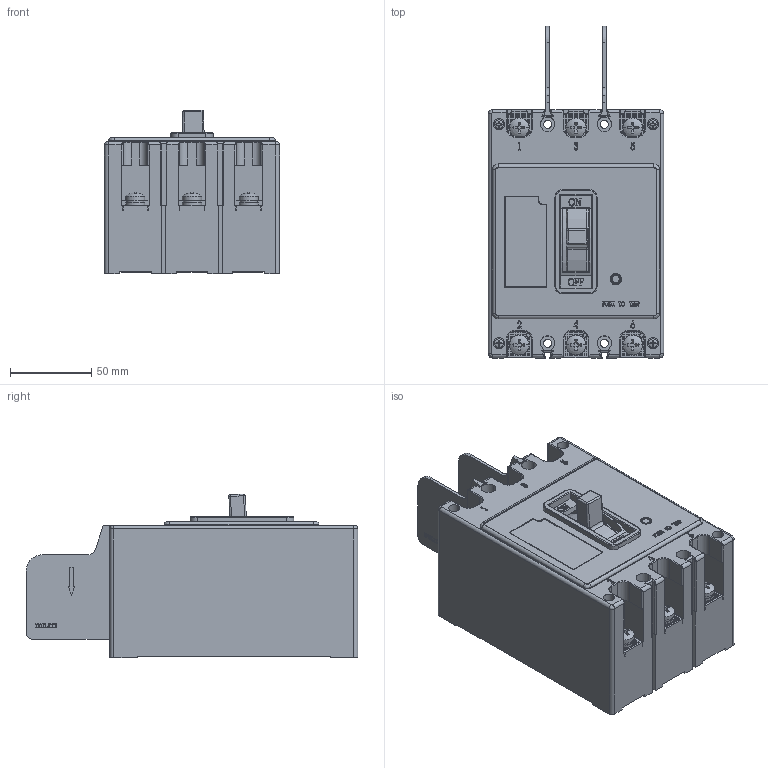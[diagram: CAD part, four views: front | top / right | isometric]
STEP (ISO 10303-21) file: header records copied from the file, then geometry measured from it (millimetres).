
FILE_DESCRIPTION((''),'2;1');
FILE_NAME('2256000700_SW0001','2023-11-10T',('baocang.li'),(''),'PRO/ENGINEER BY PARAMETRIC TECHNOLOGY CORPORATION, 2015440','PRO/ENGINEER BY PARAMETRIC TECHNOLOGY CORPORATION, 2015440','');
FILE_SCHEMA(('CONFIG_CONTROL_DESIGN'));
Products named in the file (1): 2256000700_SW0001
Bounding box: 108 x 204.6 x 100.95 mm (x, y, z)
Volume: 1034052.3 mm3; surface area: 215010.9 mm2
Topology: 4 solids, 14 shells, 4558 faces, 12183 edges, 7903 vertices
Faces by surface type: plane 3797, cylinder 624, torus 69, bspline 44, sphere 24
Entity records: 145635 total; most frequent: CARTESIAN_POINT 30832, ORIENTED_EDGE 24326, DIRECTION 22758, EDGE_CURVE 12163, VECTOR 10198, LINE 10198, VERTEX_POINT 7903, AXIS2_PLACEMENT_3D 6280
